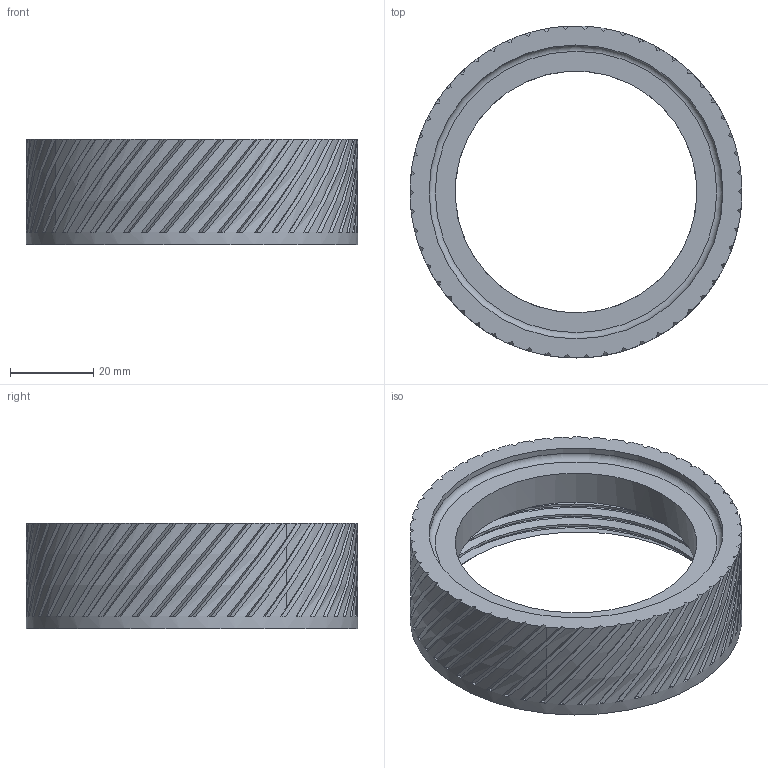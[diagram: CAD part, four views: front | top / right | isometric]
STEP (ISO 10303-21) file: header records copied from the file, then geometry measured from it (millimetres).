
FILE_DESCRIPTION(/* description */ ('STEP AP242','CAx-IF Rec.Pracs.---Representation and Presentation of Product Manufacturing Information (PMI)---4.0---2014-10-13','CAx-IF Rec.Pracs.---3D Tessellated Geometry---0.4---2014-09-14','2;1'),/* implementation_level */ '2;1');
FILE_NAME(/* name */ '646923f3cac4670533c20902',/* time_stamp */ '2023-05-20T19:48:04Z',/* author */ (''),/* organization */ (''),/* preprocessor_version */ 'ST-DEVELOPER v19.4',/* originating_system */ ' ',/* authorisation */ ' ');
FILE_SCHEMA (('AP242_MANAGED_MODEL_BASED_3D_ENGINEERING_MIM_LF { 1 0 10303 442 1 1 4 }'));
Length unit declared in the file: metre
Products named in the file (1): Base 22mm NoMagnet NoLug
Bounding box: 79.6 x 79.6 x 25.4 mm (x, y, z)
Volume: 37125.9 mm3; surface area: 18155.2 mm2
Topology: 1 solids, 1 shells, 229 faces, 673 edges, 449 vertices
Faces by surface type: bspline 149, plane 68, cylinder 8, cone 3, torus 1
Full cylindrical faces by diameter (mm): 58 x1, 70.5 x1, 79.6 x1
Entity records: 14161 total; most frequent: CARTESIAN_POINT 9754, ORIENTED_EDGE 1306, EDGE_CURVE 653, VERTEX_POINT 438, DIRECTION 438, B_SPLINE_CURVE_WITH_KNOTS 325, EDGE_LOOP 235, FACE_BOUND 235
